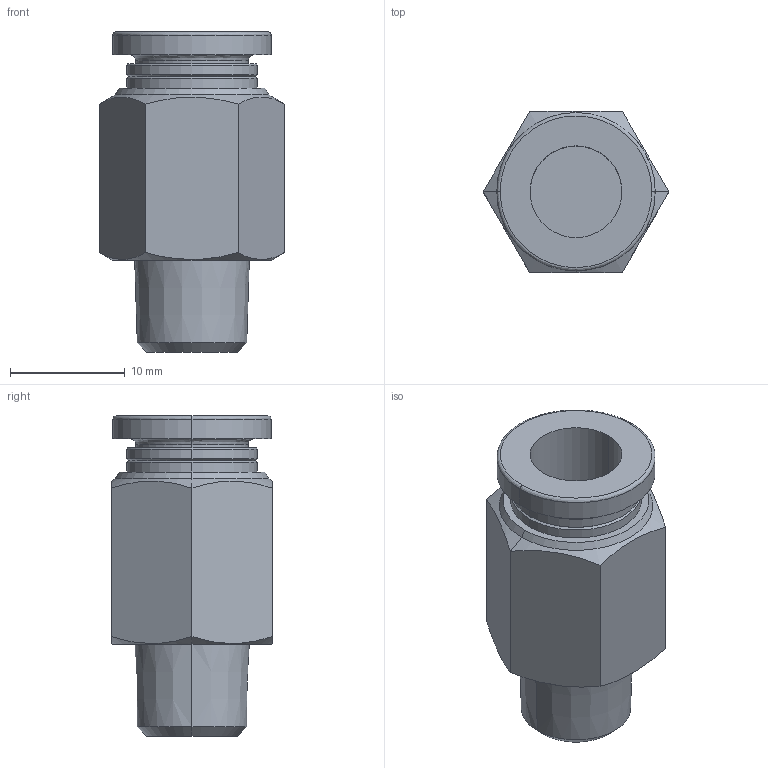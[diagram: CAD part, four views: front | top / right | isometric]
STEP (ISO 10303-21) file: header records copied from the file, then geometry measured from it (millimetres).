
FILE_DESCRIPTION (( 'STEP AP214' ), '1' );
FILE_NAME ('APC8-01.STEP', '2019-12-05T06:17:13', ( '微软用户' ), ( '微软中国' ), 'SwSTEP 2.0', 'SolidWorks 2016', '' );
FILE_SCHEMA (( 'AUTOMOTIVE_DESIGN' ));
Length unit declared in the file: millimetre
Products named in the file (1): APC8-01
Bounding box: 16.17 x 14 x 27.9 mm (x, y, z)
Volume: 2758.3 mm3; surface area: 2035.4 mm2
Topology: 1 solids, 1 shells, 44 faces, 91 edges, 54 vertices
Faces by surface type: cone 17, plane 13, cylinder 10, bspline 4
Entity records: 1667 total; most frequent: CARTESIAN_POINT 714, DIRECTION 199, ORIENTED_EDGE 182, EDGE_CURVE 91, AXIS2_PLACEMENT_3D 83, VERTEX_POINT 54, EDGE_LOOP 49, FACE_OUTER_BOUND 44
